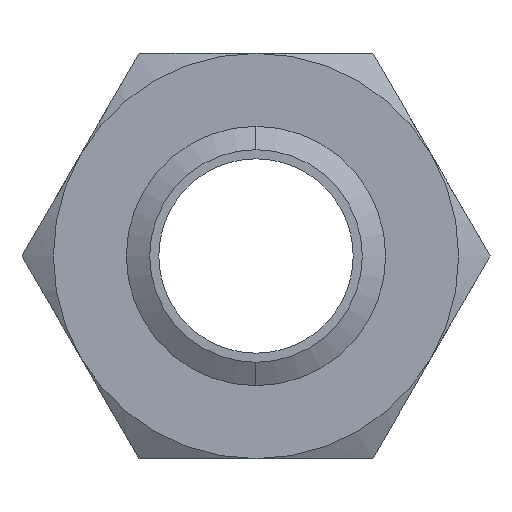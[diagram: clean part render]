
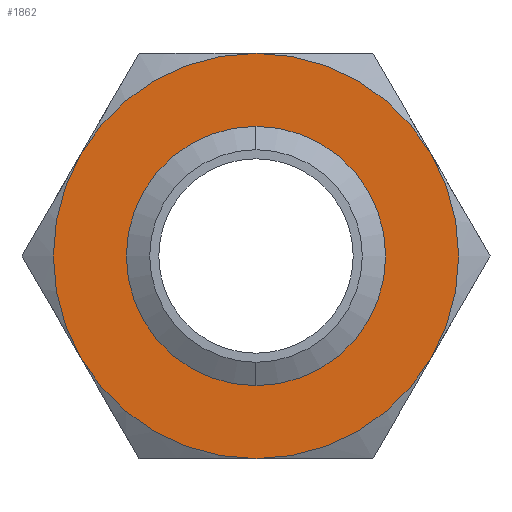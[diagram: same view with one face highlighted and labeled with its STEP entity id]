
A CAD part, front view. The second image highlights one B-rep face of the part: STEP entity #1862.
In plain terms, the highlighted planar face has unit normal (0, -1, 0).
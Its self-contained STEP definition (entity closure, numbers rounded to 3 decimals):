
#71 = EDGE_CURVE ( 'NONE', #72, #73, #470, .T. ) ;
#72 = VERTEX_POINT ( 'NONE', #465 ) ;
#73 = VERTEX_POINT ( 'NONE', #464 ) ;
#464 = CARTESIAN_POINT ( 'NONE',  ( 0., 0., 19.67 ) ) ;
#465 = CARTESIAN_POINT ( 'NONE',  ( 0., 0., -19.67 ) ) ;
#466 = DIRECTION ( 'NONE',  ( 0., 0., -1. ) ) ;
#467 = DIRECTION ( 'NONE',  ( 0., -1., 0. ) ) ;
#468 = CARTESIAN_POINT ( 'NONE',  ( 0., 0., 0. ) ) ;
#469 = AXIS2_PLACEMENT_3D ( 'NONE', #468, #467, #466 ) ;
#470 = CIRCLE ( 'NONE', #469, 19.67 ) ;
#1046 = CARTESIAN_POINT ( 'NONE',  ( 32.476, 0., 18.75 ) ) ;
#1047 = DIRECTION ( 'NONE',  ( 0., 0., 1. ) ) ;
#1048 = DIRECTION ( 'NONE',  ( 0., 1., 0. ) ) ;
#1049 = CARTESIAN_POINT ( 'NONE',  ( 0., 0., 0. ) ) ;
#1050 = AXIS2_PLACEMENT_3D ( 'NONE', #1049, #1048, #1047 ) ;
#1051 = CIRCLE ( 'NONE', #1050, 37.5 ) ;
#1056 = CARTESIAN_POINT ( 'NONE',  ( -32.476, 0., -18.75 ) ) ;
#1057 = CARTESIAN_POINT ( 'NONE',  ( 0., 0., -37.5 ) ) ;
#1081 = DIRECTION ( 'NONE',  ( 0., 0., 1. ) ) ;
#1082 = DIRECTION ( 'NONE',  ( 0., 1., 0. ) ) ;
#1083 = CARTESIAN_POINT ( 'NONE',  ( 21.651, 0., -37.5 ) ) ;
#1084 = AXIS2_PLACEMENT_3D ( 'NONE', #1083, #1082, #1081 ) ;
#1085 = PLANE ( 'NONE',  #1084 ) ;
#1086 = FACE_BOUND ( 'NONE', #2021, .T. ) ;
#1087 = FACE_OUTER_BOUND ( 'NONE', #1859, .T. ) ;
#1091 = DIRECTION ( 'NONE',  ( 0., 0., 1. ) ) ;
#1092 = DIRECTION ( 'NONE',  ( 0., 1., 0. ) ) ;
#1093 = CARTESIAN_POINT ( 'NONE',  ( 0., 0., 0. ) ) ;
#1094 = AXIS2_PLACEMENT_3D ( 'NONE', #1093, #1092, #1091 ) ;
#1095 = CIRCLE ( 'NONE', #1094, 37.5 ) ;
#1097 = CARTESIAN_POINT ( 'NONE',  ( 0., 0., 37.5 ) ) ;
#1098 = DIRECTION ( 'NONE',  ( 0., 0., 1. ) ) ;
#1099 = DIRECTION ( 'NONE',  ( 0., 1., 0. ) ) ;
#1100 = CARTESIAN_POINT ( 'NONE',  ( 0., 0., 0. ) ) ;
#1101 = AXIS2_PLACEMENT_3D ( 'NONE', #1100, #1099, #1098 ) ;
#1102 = CIRCLE ( 'NONE', #1101, 37.5 ) ;
#1103 = CARTESIAN_POINT ( 'NONE',  ( -32.476, 0., 18.75 ) ) ;
#1104 = DIRECTION ( 'NONE',  ( 0., 0., 1. ) ) ;
#1105 = DIRECTION ( 'NONE',  ( 0., 1., 0. ) ) ;
#1106 = CARTESIAN_POINT ( 'NONE',  ( 0., 0., 0. ) ) ;
#1107 = AXIS2_PLACEMENT_3D ( 'NONE', #1106, #1105, #1104 ) ;
#1108 = CIRCLE ( 'NONE', #1107, 37.5 ) ;
#1468 = DIRECTION ( 'NONE',  ( 0., 0., 1. ) ) ;
#1469 = DIRECTION ( 'NONE',  ( 0., 1., 0. ) ) ;
#1470 = CARTESIAN_POINT ( 'NONE',  ( 0., 0., 0. ) ) ;
#1471 = AXIS2_PLACEMENT_3D ( 'NONE', #1470, #1469, #1468 ) ;
#1472 = CIRCLE ( 'NONE', #1471, 37.5 ) ;
#1473 = DIRECTION ( 'NONE',  ( 0., 0., 1. ) ) ;
#1474 = DIRECTION ( 'NONE',  ( 0., 1., 0. ) ) ;
#1475 = CARTESIAN_POINT ( 'NONE',  ( 0., 0., 0. ) ) ;
#1476 = AXIS2_PLACEMENT_3D ( 'NONE', #1475, #1474, #1473 ) ;
#1477 = CIRCLE ( 'NONE', #1476, 37.5 ) ;
#1478 = CARTESIAN_POINT ( 'NONE',  ( 32.476, 0., -18.75 ) ) ;
#1481 = DIRECTION ( 'NONE',  ( 0., 0., -1. ) ) ;
#1482 = DIRECTION ( 'NONE',  ( 0., -1., 0. ) ) ;
#1483 = CARTESIAN_POINT ( 'NONE',  ( 0., 0., 0. ) ) ;
#1484 = AXIS2_PLACEMENT_3D ( 'NONE', #1483, #1482, #1481 ) ;
#1485 = CIRCLE ( 'NONE', #1484, 19.67 ) ;
#1846 = ORIENTED_EDGE ( 'NONE', *, *, #1850, .F. ) ;
#1847 = VERTEX_POINT ( 'NONE', #1057 ) ;
#1848 = VERTEX_POINT ( 'NONE', #1056 ) ;
#1850 = EDGE_CURVE ( 'NONE', #1847, #1848, #1051, .T. ) ;
#1851 = VERTEX_POINT ( 'NONE', #1046 ) ;
#1852 = ORIENTED_EDGE ( 'NONE', *, *, #1853, .F. ) ;
#1853 = EDGE_CURVE ( 'NONE', #1854, #1857, #1108, .T. ) ;
#1854 = VERTEX_POINT ( 'NONE', #1103 ) ;
#1855 = ORIENTED_EDGE ( 'NONE', *, *, #1856, .F. ) ;
#1856 = EDGE_CURVE ( 'NONE', #1848, #1854, #1102, .T. ) ;
#1857 = VERTEX_POINT ( 'NONE', #1097 ) ;
#1858 = ORIENTED_EDGE ( 'NONE', *, *, #1860, .F. ) ;
#1859 = EDGE_LOOP ( 'NONE', ( #1858, #1852, #1855, #1846, #2038, #2035 ) ) ;
#1860 = EDGE_CURVE ( 'NONE', #1857, #1851, #1095, .T. ) ;
#1862 = ADVANCED_FACE ( 'NONE', ( #1087, #1086 ), #1085, .F. ) ;
#2021 = EDGE_LOOP ( 'NONE', ( #2023, #2028 ) ) ;
#2023 = ORIENTED_EDGE ( 'NONE', *, *, #71, .F. ) ;
#2028 = ORIENTED_EDGE ( 'NONE', *, *, #2029, .F. ) ;
#2029 = EDGE_CURVE ( 'NONE', #73, #72, #1485, .T. ) ;
#2034 = VERTEX_POINT ( 'NONE', #1478 ) ;
#2035 = ORIENTED_EDGE ( 'NONE', *, *, #2036, .F. ) ;
#2036 = EDGE_CURVE ( 'NONE', #1851, #2034, #1477, .T. ) ;
#2037 = EDGE_CURVE ( 'NONE', #2034, #1847, #1472, .T. ) ;
#2038 = ORIENTED_EDGE ( 'NONE', *, *, #2037, .F. ) ;
